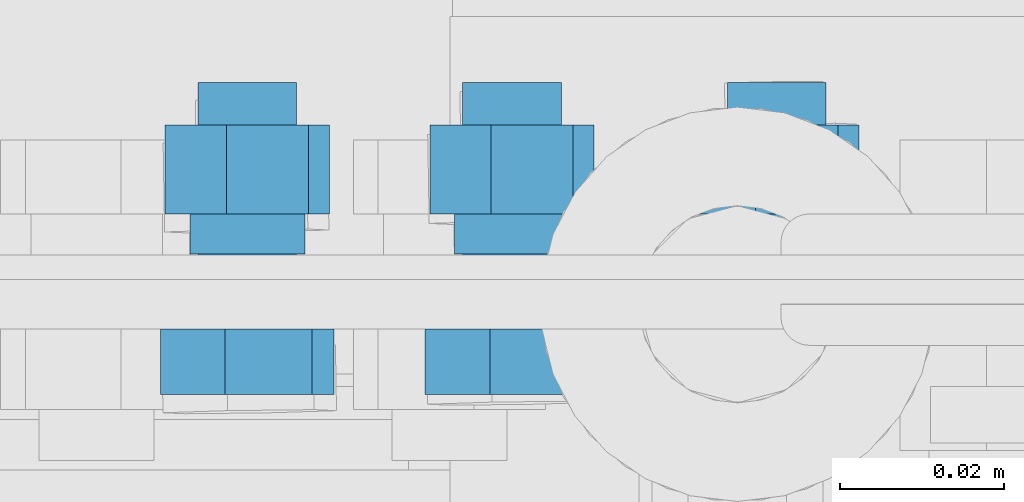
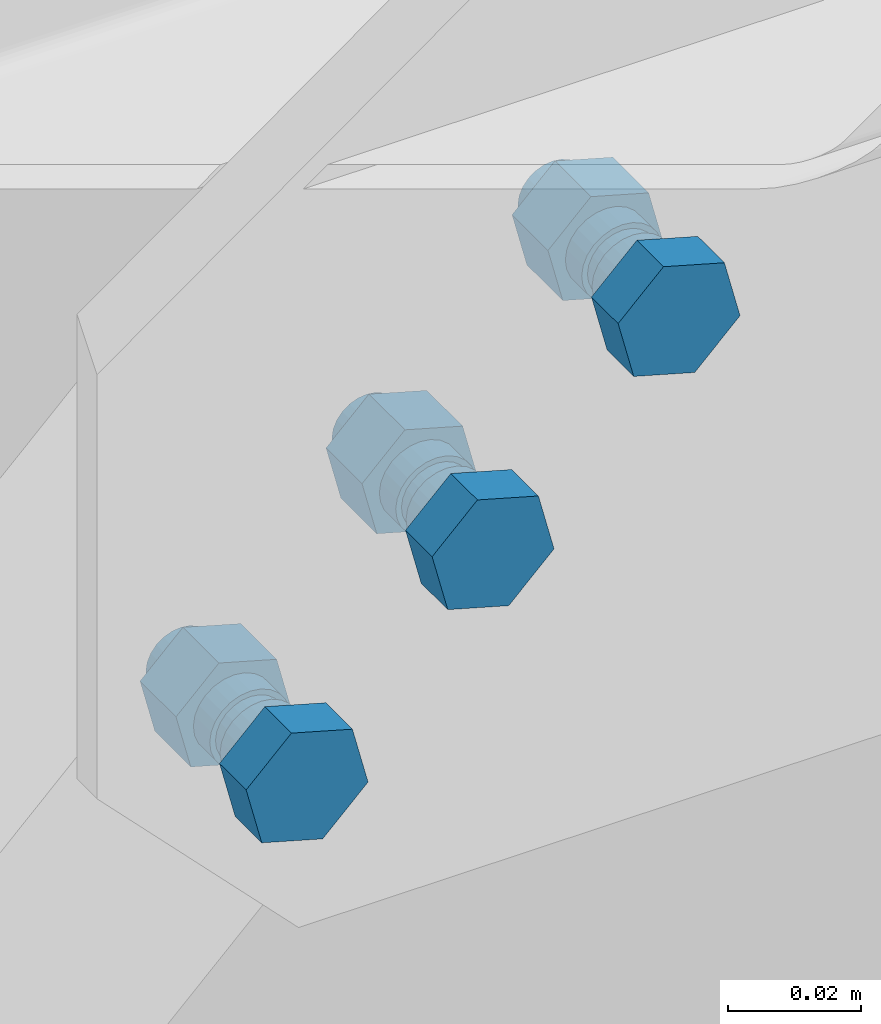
# One storey, part 12 of 21: 1 mechanical fastener.
"""IFC2X3 building model written with IfcOpenShell, lengths in millimetres."""

from ifc_helpers import new_model, si_unit, frame, origin_with_axes, place, context, project, spatial, faceted_brep, element, save


model = new_model("IFC2X3")

# Units and contexts
model_context_1 = context("Model", 3, precision=1e-05, world=origin_with_axes(), identifier="Body")
model_context_2 = context("Model", 3, precision=1e-05, world=origin_with_axes())
ifc_project = project(units=[si_unit("LENGTHUNIT", "METRE", prefix="MILLI"), si_unit("AREAUNIT", "SQUARE_METRE"), si_unit("VOLUMEUNIT", "CUBIC_METRE"), si_unit("MASSUNIT", "GRAM", prefix="KILO"), si_unit("TIMEUNIT", "SECOND"), si_unit("PLANEANGLEUNIT", "RADIAN"), si_unit("SOLIDANGLEUNIT", "STERADIAN"), si_unit("THERMODYNAMICTEMPERATUREUNIT", "DEGREE_CELSIUS"), si_unit("LUMINOUSINTENSITYUNIT", "LUMEN")], contexts=[model_context_1, model_context_2])

# Site, building, storey
site_placement = place(None, origin_with_axes())
site = spatial("IfcSite", under=ifc_project, at=site_placement, Name="Undefined", CompositionType="ELEMENT")
building_placement = place(site_placement, origin_with_axes())
building = spatial("IfcBuilding", under=site, at=building_placement, Name="Undefined", CompositionType="ELEMENT")
storey_placement = place(building_placement, origin_with_axes())
storey = spatial("IfcBuildingStorey", under=building, at=storey_placement, Name="Undefined", CompositionType="ELEMENT")

# Mechanical fastener
mechanical_fastener_placement = place(storey_placement, frame((-55.216616, -68.999999, 5327.1381), z_axis=(0.69826255, -6.8418165e-13, -0.71584175), x_axis=(-0.71583755, -2.6949672e-13, -0.69826685)))
element("IfcMechanicalFastener", 1, at=mechanical_fastener_placement, inside=storey, Name="Bolt assembly", NominalDiameter=12.0, NominalLength=30.0, context=model_context_1, shape_type="Brep", body=[
    faceted_brep([(10.969655, -16.999478, 0.0), (5.4848276, -16.999478, 9.5), (-5.4848276, -16.999478, 9.5), (-10.969655, -16.999478, 0.0), (-5.4848276, -16.999478, -9.5), (5.4848276, -16.999478, -9.5), (5.4848276, -8.9994778, -9.5), (-5.4848276, -8.9994778, -9.5), (-10.969655, -8.9994778, 0.0), (-5.4848276, -8.9994778, 9.5), (5.4848276, -8.9994778, 9.5), (10.969655, -8.9994778, 0.0), (6.0, -8.9994778, 0.0), (5.795555, -8.9994778, 1.5529143), (5.1961524, -8.9994778, 3.0), (4.2426407, -8.9994778, 4.2426407), (3.0, -8.9994778, 5.1961524), (1.5529143, -8.9994778, 5.795555), (-6.2180159e-13, -8.9994778, 6.0), (-1.5529143, -8.9994778, 5.795555), (-3.0, -8.9994778, 5.1961524), (-4.2426407, -8.9994778, 4.2426407), (-5.1961524, -8.9994778, 3.0), (-5.795555, -8.9994778, 1.5529143), (-6.0, -8.9994778, -1.2436032e-12), (-5.795555, -8.9994778, -1.5529143), (-5.1961524, -8.9994778, -3.0), (-4.2426407, -8.9994778, -4.2426407), (-3.0, -8.9994778, -5.1961524), (-1.5529143, -8.9994778, -5.795555), (1.8587434e-12, -8.9994778, -6.0), (1.5529143, -8.9994778, -5.795555), (3.0, -8.9994778, -5.1961524), (4.2426407, -8.9994778, -4.2426407), (5.1961524, -8.9994778, -3.0), (5.795555, -8.9994778, -1.5529143), (5.795555, 21.000522, -1.5529143), (5.1961524, 21.000522, -3.0), (4.2426407, 21.000522, -4.2426407), (3.0, 21.000522, -5.1961524), (1.5529143, 21.000522, -5.795555), (1.8587434e-12, 21.000522, -6.0), (-1.5529143, 21.000522, -5.795555), (-3.0, 21.000522, -5.1961524), (-4.2426407, 21.000522, -4.2426407), (-5.1961524, 21.000522, -3.0), (-5.795555, 21.000522, -1.5529143), (-6.0, 21.000522, -1.2436032e-12), (-5.795555, 21.000522, 1.5529143), (-5.1961524, 21.000522, 3.0), (-4.2426407, 21.000522, 4.2426407), (-3.0, 21.000522, 5.1961524), (-1.5529143, 21.000522, 5.795555), (-6.2180159e-13, 21.000522, 6.0), (1.5529143, 21.000522, 5.795555), (3.0, 21.000522, 5.1961524), (4.2426407, 21.000522, 4.2426407), (5.1961524, 21.000522, 3.0), (5.795555, 21.000522, 1.5529143), (6.0, 21.000522, 0.0), (10.392305, 5.0, 0.0), (5.1961524, 5.0, 9.0), (-5.1961524, 5.0, 9.0), (-10.392305, 5.0, 0.0), (-5.1961524, 5.0, -9.0), (5.1961524, 5.0, -9.0), (5.1961524, 15.8, -9.0), (-5.1961524, 15.8, -9.0), (-10.392305, 15.8, 0.0), (-5.1961524, 15.8, 9.0), (5.1961524, 15.8, 9.0), (10.392305, 15.8, 0.0), (55.969655, -16.999478, 0.0), (50.484828, -16.999478, 9.5), (39.515172, -16.999478, 9.5), (34.030345, -16.999478, 0.0), (39.515172, -16.999478, -9.5), (50.484828, -16.999478, -9.5), (50.484828, -8.9994778, -9.5), (39.515172, -8.9994778, -9.5), (34.030345, -8.9994778, 0.0), (39.515172, -8.9994778, 9.5), (50.484828, -8.9994778, 9.5), (55.969655, -8.9994778, 0.0), (51.0, -8.9994778, 0.0), (50.795555, -8.9994778, 1.5529143), (50.196152, -8.9994778, 3.0), (49.242641, -8.9994778, 4.2426407), (48.0, -8.9994778, 5.1961524), (46.552914, -8.9994778, 5.795555), (45.0, -8.9994778, 6.0), (43.447086, -8.9994778, 5.795555), (42.0, -8.9994778, 5.1961524), (40.757359, -8.9994778, 4.2426407), (39.803848, -8.9994778, 3.0), (39.204445, -8.9994778, 1.5529143), (39.0, -8.9994778, -1.2436032e-12), (39.204445, -8.9994778, -1.5529143), (39.803848, -8.9994778, -3.0), (40.757359, -8.9994778, -4.2426407), (42.0, -8.9994778, -5.1961524), (43.447086, -8.9994778, -5.795555), (45.0, -8.9994778, -6.0), (46.552914, -8.9994778, -5.795555), (48.0, -8.9994778, -5.1961524), (49.242641, -8.9994778, -4.2426407), (50.196152, -8.9994778, -3.0), (50.795555, -8.9994778, -1.5529143), (50.795555, 21.000522, -1.5529143), (50.196152, 21.000522, -3.0), (49.242641, 21.000522, -4.2426407), (48.0, 21.000522, -5.1961524), (46.552914, 21.000522, -5.795555), (45.0, 21.000522, -6.0), (43.447086, 21.000522, -5.795555), (42.0, 21.000522, -5.1961524), (40.757359, 21.000522, -4.2426407), (39.803848, 21.000522, -3.0), (39.204445, 21.000522, -1.5529143), (39.0, 21.000522, -1.2436032e-12), (39.204445, 21.000522, 1.5529143), (39.803848, 21.000522, 3.0), (40.757359, 21.000522, 4.2426407), (42.0, 21.000522, 5.1961524), (43.447086, 21.000522, 5.795555), (45.0, 21.000522, 6.0), (46.552914, 21.000522, 5.795555), (48.0, 21.000522, 5.1961524), (49.242641, 21.000522, 4.2426407), (50.196152, 21.000522, 3.0), (50.795555, 21.000522, 1.5529143), (51.0, 21.000522, 0.0), (55.392305, 5.0, 0.0), (50.196152, 5.0, 9.0), (39.803848, 5.0, 9.0), (34.607695, 5.0, 0.0), (39.803848, 5.0, -9.0), (50.196152, 5.0, -9.0), (50.196152, 15.8, -9.0), (39.803848, 15.8, -9.0), (34.607695, 15.8, 0.0), (39.803848, 15.8, 9.0), (50.196152, 15.8, 9.0), (55.392305, 15.8, 0.0), (100.96966, -16.999478, 0.0), (95.484828, -16.999478, 9.5), (84.515172, -16.999478, 9.5), (79.030345, -16.999478, 0.0), (84.515172, -16.999478, -9.5), (95.484828, -16.999478, -9.5), (95.484828, -8.9994778, -9.5), (84.515172, -8.9994778, -9.5), (79.030345, -8.9994778, 0.0), (84.515172, -8.9994778, 9.5), (95.484828, -8.9994778, 9.5), (100.96966, -8.9994778, 0.0), (96.0, -8.9994778, 0.0), (95.795555, -8.9994778, 1.5529143), (95.196152, -8.9994778, 3.0), (94.242641, -8.9994778, 4.2426407), (93.0, -8.9994778, 5.1961524), (91.552914, -8.9994778, 5.795555), (90.0, -8.9994778, 6.0), (88.447086, -8.9994778, 5.795555), (87.0, -8.9994778, 5.1961524), (85.757359, -8.9994778, 4.2426407), (84.803848, -8.9994778, 3.0), (84.204445, -8.9994778, 1.5529143), (84.0, -8.9994778, -1.2436032e-12), (84.204445, -8.9994778, -1.5529143), (84.803848, -8.9994778, -3.0), (85.757359, -8.9994778, -4.2426407), (87.0, -8.9994778, -5.1961524), (88.447086, -8.9994778, -5.795555), (90.0, -8.9994778, -6.0), (91.552914, -8.9994778, -5.795555), (93.0, -8.9994778, -5.1961524), (94.242641, -8.9994778, -4.2426407), (95.196152, -8.9994778, -3.0), (95.795555, -8.9994778, -1.5529143), (95.795555, 21.000522, -1.5529143), (95.196152, 21.000522, -3.0), (94.242641, 21.000522, -4.2426407), (93.0, 21.000522, -5.1961524), (91.552914, 21.000522, -5.795555), (90.0, 21.000522, -6.0), (88.447086, 21.000522, -5.795555), (87.0, 21.000522, -5.1961524), (85.757359, 21.000522, -4.2426407), (84.803848, 21.000522, -3.0), (84.204445, 21.000522, -1.5529143), (84.0, 21.000522, -1.2436032e-12), (84.204445, 21.000522, 1.5529143), (84.803848, 21.000522, 3.0), (85.757359, 21.000522, 4.2426407), (87.0, 21.000522, 5.1961524), (88.447086, 21.000522, 5.795555), (90.0, 21.000522, 6.0), (91.552914, 21.000522, 5.795555), (93.0, 21.000522, 5.1961524), (94.242641, 21.000522, 4.2426407), (95.196152, 21.000522, 3.0), (95.795555, 21.000522, 1.5529143), (96.0, 21.000522, 0.0), (100.3923, 5.0, 0.0), (95.196152, 5.0, 9.0), (84.803848, 5.0, 9.0), (79.607695, 5.0, 0.0), (84.803848, 5.0, -9.0), (95.196152, 5.0, -9.0), (95.196152, 15.8, -9.0), (84.803848, 15.8, -9.0), (79.607695, 15.8, 0.0), (84.803848, 15.8, 9.0), (95.196152, 15.8, 9.0), (100.3923, 15.8, 0.0)], [[[0, 1, 2, 3, 4, 5]], [[6, 7, 8, 9, 10, 11]], [[0, 11, 10, 1]], [[1, 10, 9, 2]], [[2, 9, 8, 3]], [[3, 8, 7, 4]], [[4, 7, 6, 5]], [[5, 6, 11, 0]], [[12, 13, 14, 15, 16, 17, 18, 19, 20, 21, 22, 23, 24, 25, 26, 27, 28, 29, 30, 31, 32, 33, 34, 35]], [[36, 37, 38, 39, 40, 41, 42, 43, 44, 45, 46, 47, 48, 49, 50, 51, 52, 53, 54, 55, 56, 57, 58, 59]], [[12, 59, 58, 13]], [[13, 58, 57, 14]], [[14, 57, 56, 15]], [[15, 56, 55, 16]], [[16, 55, 54, 17]], [[17, 54, 53, 18]], [[18, 53, 52, 19]], [[19, 52, 51, 20]], [[20, 51, 50, 21]], [[21, 50, 49, 22]], [[22, 49, 48, 23]], [[23, 48, 47, 24]], [[24, 47, 46, 25]], [[25, 46, 45, 26]], [[26, 45, 44, 27]], [[27, 44, 43, 28]], [[28, 43, 42, 29]], [[29, 42, 41, 30]], [[30, 41, 40, 31]], [[31, 40, 39, 32]], [[32, 39, 38, 33]], [[33, 38, 37, 34]], [[34, 37, 36, 35]], [[35, 36, 59, 12]], [[60, 61, 62, 63, 64, 65]], [[66, 67, 68, 69, 70, 71]], [[60, 71, 70, 61]], [[61, 70, 69, 62]], [[62, 69, 68, 63]], [[63, 68, 67, 64]], [[64, 67, 66, 65]], [[65, 66, 71, 60]], [[72, 73, 74, 75, 76, 77]], [[78, 79, 80, 81, 82, 83]], [[72, 83, 82, 73]], [[73, 82, 81, 74]], [[74, 81, 80, 75]], [[75, 80, 79, 76]], [[76, 79, 78, 77]], [[77, 78, 83, 72]], [[84, 85, 86, 87, 88, 89, 90, 91, 92, 93, 94, 95, 96, 97, 98, 99, 100, 101, 102, 103, 104, 105, 106, 107]], [[108, 109, 110, 111, 112, 113, 114, 115, 116, 117, 118, 119, 120, 121, 122, 123, 124, 125, 126, 127, 128, 129, 130, 131]], [[84, 131, 130, 85]], [[85, 130, 129, 86]], [[86, 129, 128, 87]], [[87, 128, 127, 88]], [[88, 127, 126, 89]], [[89, 126, 125, 90]], [[90, 125, 124, 91]], [[91, 124, 123, 92]], [[92, 123, 122, 93]], [[93, 122, 121, 94]], [[94, 121, 120, 95]], [[95, 120, 119, 96]], [[96, 119, 118, 97]], [[97, 118, 117, 98]], [[98, 117, 116, 99]], [[99, 116, 115, 100]], [[100, 115, 114, 101]], [[101, 114, 113, 102]], [[102, 113, 112, 103]], [[103, 112, 111, 104]], [[104, 111, 110, 105]], [[105, 110, 109, 106]], [[106, 109, 108, 107]], [[107, 108, 131, 84]], [[132, 133, 134, 135, 136, 137]], [[138, 139, 140, 141, 142, 143]], [[132, 143, 142, 133]], [[133, 142, 141, 134]], [[134, 141, 140, 135]], [[135, 140, 139, 136]], [[136, 139, 138, 137]], [[137, 138, 143, 132]], [[144, 145, 146, 147, 148, 149]], [[150, 151, 152, 153, 154, 155]], [[144, 155, 154, 145]], [[145, 154, 153, 146]], [[146, 153, 152, 147]], [[147, 152, 151, 148]], [[148, 151, 150, 149]], [[149, 150, 155, 144]], [[156, 157, 158, 159, 160, 161, 162, 163, 164, 165, 166, 167, 168, 169, 170, 171, 172, 173, 174, 175, 176, 177, 178, 179]], [[180, 181, 182, 183, 184, 185, 186, 187, 188, 189, 190, 191, 192, 193, 194, 195, 196, 197, 198, 199, 200, 201, 202, 203]], [[156, 203, 202, 157]], [[157, 202, 201, 158]], [[158, 201, 200, 159]], [[159, 200, 199, 160]], [[160, 199, 198, 161]], [[161, 198, 197, 162]], [[162, 197, 196, 163]], [[163, 196, 195, 164]], [[164, 195, 194, 165]], [[165, 194, 193, 166]], [[166, 193, 192, 167]], [[167, 192, 191, 168]], [[168, 191, 190, 169]], [[169, 190, 189, 170]], [[170, 189, 188, 171]], [[171, 188, 187, 172]], [[172, 187, 186, 173]], [[173, 186, 185, 174]], [[174, 185, 184, 175]], [[175, 184, 183, 176]], [[176, 183, 182, 177]], [[177, 182, 181, 178]], [[178, 181, 180, 179]], [[179, 180, 203, 156]], [[204, 205, 206, 207, 208, 209]], [[210, 211, 212, 213, 214, 215]], [[204, 215, 214, 205]], [[205, 214, 213, 206]], [[206, 213, 212, 207]], [[207, 212, 211, 208]], [[208, 211, 210, 209]], [[209, 210, 215, 204]]]),
    faceted_brep([(7.0, -9.0994778, 0.0), (6.7614808, -9.0994778, 1.8117333), (6.0621778, -9.0994778, 3.5), (4.9497475, -9.0994778, 4.9497475), (3.5, -9.0994778, 6.0621778), (1.8117333, -9.0994778, 6.7614808), (-7.2543519e-13, -9.0994778, 7.0), (-1.8117333, -9.0994778, 6.7614808), (-3.5, -9.0994778, 6.0621778), (-4.9497475, -9.0994778, 4.9497475), (-6.0621778, -9.0994778, 3.5), (-6.7614808, -9.0994778, 1.8117333), (-7.0, -9.0994778, -1.4508704e-12), (-6.7614808, -9.0994778, -1.8117333), (-6.0621778, -9.0994778, -3.5), (-4.9497475, -9.0994778, -4.9497475), (-3.5, -9.0994778, -6.0621778), (-1.8117333, -9.0994778, -6.7614808), (2.168534e-12, -9.0994778, -7.0), (1.8117333, -9.0994778, -6.7614808), (3.5, -9.0994778, -6.0621778), (4.9497475, -9.0994778, -4.9497475), (6.0621778, -9.0994778, -3.5), (6.7614808, -9.0994778, -1.8117333), (6.7614808, -2.9994778, -1.8117333), (6.0621778, -2.9994778, -3.5), (4.9497475, -2.9994778, -4.9497475), (3.5, -2.9994778, -6.0621778), (1.8117333, -2.9994778, -6.7614808), (2.168534e-12, -2.9994778, -7.0), (-1.8117333, -2.9994778, -6.7614808), (-3.5, -2.9994778, -6.0621778), (-4.9497475, -2.9994778, -4.9497475), (-6.0621778, -2.9994778, -3.5), (-6.7614808, -2.9994778, -1.8117333), (-7.0, -2.9994778, -1.4508704e-12), (-6.7614808, -2.9994778, 1.8117333), (-6.0621778, -2.9994778, 3.5), (-4.9497475, -2.9994778, 4.9497475), (-3.5, -2.9994778, 6.0621778), (-1.8117333, -2.9994778, 6.7614808), (-7.2543519e-13, -2.9994778, 7.0), (1.8117333, -2.9994778, 6.7614808), (3.5, -2.9994778, 6.0621778), (4.9497475, -2.9994778, 4.9497475), (6.0621778, -2.9994778, 3.5), (6.7614808, -2.9994778, 1.8117333), (7.0, -2.9994778, 0.0), (7.0, 0.1, 0.0), (6.7614808, 0.1, 1.8117333), (6.0621778, 0.1, 3.5), (4.9497475, 0.1, 4.9497475), (3.5, 0.1, 6.0621778), (1.8117333, 0.1, 6.7614808), (-7.2543519e-13, 0.1, 7.0), (-1.8117333, 0.1, 6.7614808), (-3.5, 0.1, 6.0621778), (-4.9497475, 0.1, 4.9497475), (-6.0621778, 0.1, 3.5), (-6.7614808, 0.1, 1.8117333), (-7.0, 0.1, -1.4508704e-12), (-6.7614808, 0.1, -1.8117333), (-6.0621778, 0.1, -3.5), (-4.9497475, 0.1, -4.9497475), (-3.5, 0.1, -6.0621778), (-1.8117333, 0.1, -6.7614808), (2.168534e-12, 0.1, -7.0), (1.8117333, 0.1, -6.7614808), (3.5, 0.1, -6.0621778), (4.9497475, 0.1, -4.9497475), (6.0621778, 0.1, -3.5), (6.7614808, 0.1, -1.8117333), (6.7614808, 5.1, -1.8117333), (6.0621778, 5.1, -3.5), (4.9497475, 5.1, -4.9497475), (3.5, 5.1, -6.0621778), (1.8117333, 5.1, -6.7614808), (2.168534e-12, 5.1, -7.0), (-1.8117333, 5.1, -6.7614808), (-3.5, 5.1, -6.0621778), (-4.9497475, 5.1, -4.9497475), (-6.0621778, 5.1, -3.5), (-6.7614808, 5.1, -1.8117333), (-7.0, 5.1, -1.4508704e-12), (-6.7614808, 5.1, 1.8117333), (-6.0621778, 5.1, 3.5), (-4.9497475, 5.1, 4.9497475), (-3.5, 5.1, 6.0621778), (-1.8117333, 5.1, 6.7614808), (-7.2543519e-13, 5.1, 7.0), (1.8117333, 5.1, 6.7614808), (3.5, 5.1, 6.0621778), (4.9497475, 5.1, 4.9497475), (6.0621778, 5.1, 3.5), (6.7614808, 5.1, 1.8117333), (7.0, 5.1, 0.0), (52.0, -9.0994778, 0.0), (51.761481, -9.0994778, 1.8117333), (51.062178, -9.0994778, 3.5), (49.949747, -9.0994778, 4.9497475), (48.5, -9.0994778, 6.0621778), (46.811733, -9.0994778, 6.7614808), (45.0, -9.0994778, 7.0), (43.188267, -9.0994778, 6.7614808), (41.5, -9.0994778, 6.0621778), (40.050253, -9.0994778, 4.9497475), (38.937822, -9.0994778, 3.5), (38.238519, -9.0994778, 1.8117333), (38.0, -9.0994778, -1.4508704e-12), (38.238519, -9.0994778, -1.8117333), (38.937822, -9.0994778, -3.5), (40.050253, -9.0994778, -4.9497475), (41.5, -9.0994778, -6.0621778), (43.188267, -9.0994778, -6.7614808), (45.0, -9.0994778, -7.0), (46.811733, -9.0994778, -6.7614808), (48.5, -9.0994778, -6.0621778), (49.949747, -9.0994778, -4.9497475), (51.062178, -9.0994778, -3.5), (51.761481, -9.0994778, -1.8117333), (51.761481, -2.9994778, -1.8117333), (51.062178, -2.9994778, -3.5), (49.949747, -2.9994778, -4.9497475), (48.5, -2.9994778, -6.0621778), (46.811733, -2.9994778, -6.7614808), (45.0, -2.9994778, -7.0), (43.188267, -2.9994778, -6.7614808), (41.5, -2.9994778, -6.0621778), (40.050253, -2.9994778, -4.9497475), (38.937822, -2.9994778, -3.5), (38.238519, -2.9994778, -1.8117333), (38.0, -2.9994778, -1.4508704e-12), (38.238519, -2.9994778, 1.8117333), (38.937822, -2.9994778, 3.5), (40.050253, -2.9994778, 4.9497475), (41.5, -2.9994778, 6.0621778), (43.188267, -2.9994778, 6.7614808), (45.0, -2.9994778, 7.0), (46.811733, -2.9994778, 6.7614808), (48.5, -2.9994778, 6.0621778), (49.949747, -2.9994778, 4.9497475), (51.062178, -2.9994778, 3.5), (51.761481, -2.9994778, 1.8117333), (52.0, -2.9994778, 0.0), (52.0, 0.1, 0.0), (51.761481, 0.1, 1.8117333), (51.062178, 0.1, 3.5), (49.949747, 0.1, 4.9497475), (48.5, 0.1, 6.0621778), (46.811733, 0.1, 6.7614808), (45.0, 0.1, 7.0), (43.188267, 0.1, 6.7614808), (41.5, 0.1, 6.0621778), (40.050253, 0.1, 4.9497475), (38.937822, 0.1, 3.5), (38.238519, 0.1, 1.8117333), (38.0, 0.1, -1.4508704e-12), (38.238519, 0.1, -1.8117333), (38.937822, 0.1, -3.5), (40.050253, 0.1, -4.9497475), (41.5, 0.1, -6.0621778), (43.188267, 0.1, -6.7614808), (45.0, 0.1, -7.0), (46.811733, 0.1, -6.7614808), (48.5, 0.1, -6.0621778), (49.949747, 0.1, -4.9497475), (51.062178, 0.1, -3.5), (51.761481, 0.1, -1.8117333), (51.761481, 5.1, -1.8117333), (51.062178, 5.1, -3.5), (49.949747, 5.1, -4.9497475), (48.5, 5.1, -6.0621778), (46.811733, 5.1, -6.7614808), (45.0, 5.1, -7.0), (43.188267, 5.1, -6.7614808), (41.5, 5.1, -6.0621778), (40.050253, 5.1, -4.9497475), (38.937822, 5.1, -3.5), (38.238519, 5.1, -1.8117333), (38.0, 5.1, -1.4508704e-12), (38.238519, 5.1, 1.8117333), (38.937822, 5.1, 3.5), (40.050253, 5.1, 4.9497475), (41.5, 5.1, 6.0621778), (43.188267, 5.1, 6.7614808), (45.0, 5.1, 7.0), (46.811733, 5.1, 6.7614808), (48.5, 5.1, 6.0621778), (49.949747, 5.1, 4.9497475), (51.062178, 5.1, 3.5), (51.761481, 5.1, 1.8117333), (52.0, 5.1, 0.0), (97.0, -9.0994778, 0.0), (96.761481, -9.0994778, 1.8117333), (96.062178, -9.0994778, 3.5), (94.949747, -9.0994778, 4.9497475), (93.5, -9.0994778, 6.0621778), (91.811733, -9.0994778, 6.7614808), (90.0, -9.0994778, 7.0), (88.188267, -9.0994778, 6.7614808), (86.5, -9.0994778, 6.0621778), (85.050253, -9.0994778, 4.9497475), (83.937822, -9.0994778, 3.5), (83.238519, -9.0994778, 1.8117333), (83.0, -9.0994778, -1.4508704e-12), (83.238519, -9.0994778, -1.8117333), (83.937822, -9.0994778, -3.5), (85.050253, -9.0994778, -4.9497475), (86.5, -9.0994778, -6.0621778), (88.188267, -9.0994778, -6.7614808), (90.0, -9.0994778, -7.0), (91.811733, -9.0994778, -6.7614808), (93.5, -9.0994778, -6.0621778), (94.949747, -9.0994778, -4.9497475), (96.062178, -9.0994778, -3.5), (96.761481, -9.0994778, -1.8117333), (96.761481, -2.9994778, -1.8117333), (96.062178, -2.9994778, -3.5), (94.949747, -2.9994778, -4.9497475), (93.5, -2.9994778, -6.0621778), (91.811733, -2.9994778, -6.7614808), (90.0, -2.9994778, -7.0), (88.188267, -2.9994778, -6.7614808), (86.5, -2.9994778, -6.0621778), (85.050253, -2.9994778, -4.9497475), (83.937822, -2.9994778, -3.5), (83.238519, -2.9994778, -1.8117333), (83.0, -2.9994778, -1.4508704e-12), (83.238519, -2.9994778, 1.8117333), (83.937822, -2.9994778, 3.5), (85.050253, -2.9994778, 4.9497475), (86.5, -2.9994778, 6.0621778), (88.188267, -2.9994778, 6.7614808), (90.0, -2.9994778, 7.0), (91.811733, -2.9994778, 6.7614808), (93.5, -2.9994778, 6.0621778), (94.949747, -2.9994778, 4.9497475), (96.062178, -2.9994778, 3.5), (96.761481, -2.9994778, 1.8117333), (97.0, -2.9994778, 0.0), (97.0, 0.1, 0.0), (96.761481, 0.1, 1.8117333), (96.062178, 0.1, 3.5), (94.949747, 0.1, 4.9497475), (93.5, 0.1, 6.0621778), (91.811733, 0.1, 6.7614808), (90.0, 0.1, 7.0), (88.188267, 0.1, 6.7614808), (86.5, 0.1, 6.0621778), (85.050253, 0.1, 4.9497475), (83.937822, 0.1, 3.5), (83.238519, 0.1, 1.8117333), (83.0, 0.1, -1.4508704e-12), (83.238519, 0.1, -1.8117333), (83.937822, 0.1, -3.5), (85.050253, 0.1, -4.9497475), (86.5, 0.1, -6.0621778), (88.188267, 0.1, -6.7614808), (90.0, 0.1, -7.0), (91.811733, 0.1, -6.7614808), (93.5, 0.1, -6.0621778), (94.949747, 0.1, -4.9497475), (96.062178, 0.1, -3.5), (96.761481, 0.1, -1.8117333), (96.761481, 5.1, -1.8117333), (96.062178, 5.1, -3.5), (94.949747, 5.1, -4.9497475), (93.5, 5.1, -6.0621778), (91.811733, 5.1, -6.7614808), (90.0, 5.1, -7.0), (88.188267, 5.1, -6.7614808), (86.5, 5.1, -6.0621778), (85.050253, 5.1, -4.9497475), (83.937822, 5.1, -3.5), (83.238519, 5.1, -1.8117333), (83.0, 5.1, -1.4508704e-12), (83.238519, 5.1, 1.8117333), (83.937822, 5.1, 3.5), (85.050253, 5.1, 4.9497475), (86.5, 5.1, 6.0621778), (88.188267, 5.1, 6.7614808), (90.0, 5.1, 7.0), (91.811733, 5.1, 6.7614808), (93.5, 5.1, 6.0621778), (94.949747, 5.1, 4.9497475), (96.062178, 5.1, 3.5), (96.761481, 5.1, 1.8117333), (97.0, 5.1, 0.0)], [[[0, 1, 2, 3, 4, 5, 6, 7, 8, 9, 10, 11, 12, 13, 14, 15, 16, 17, 18, 19, 20, 21, 22, 23]], [[24, 25, 26, 27, 28, 29, 30, 31, 32, 33, 34, 35, 36, 37, 38, 39, 40, 41, 42, 43, 44, 45, 46, 47]], [[0, 47, 46, 1]], [[1, 46, 45, 2]], [[2, 45, 44, 3]], [[3, 44, 43, 4]], [[4, 43, 42, 5]], [[5, 42, 41, 6]], [[6, 41, 40, 7]], [[7, 40, 39, 8]], [[8, 39, 38, 9]], [[9, 38, 37, 10]], [[10, 37, 36, 11]], [[11, 36, 35, 12]], [[12, 35, 34, 13]], [[13, 34, 33, 14]], [[14, 33, 32, 15]], [[15, 32, 31, 16]], [[16, 31, 30, 17]], [[17, 30, 29, 18]], [[18, 29, 28, 19]], [[19, 28, 27, 20]], [[20, 27, 26, 21]], [[21, 26, 25, 22]], [[22, 25, 24, 23]], [[23, 24, 47, 0]], [[48, 49, 50, 51, 52, 53, 54, 55, 56, 57, 58, 59, 60, 61, 62, 63, 64, 65, 66, 67, 68, 69, 70, 71]], [[72, 73, 74, 75, 76, 77, 78, 79, 80, 81, 82, 83, 84, 85, 86, 87, 88, 89, 90, 91, 92, 93, 94, 95]], [[48, 95, 94, 49]], [[49, 94, 93, 50]], [[50, 93, 92, 51]], [[51, 92, 91, 52]], [[52, 91, 90, 53]], [[53, 90, 89, 54]], [[54, 89, 88, 55]], [[55, 88, 87, 56]], [[56, 87, 86, 57]], [[57, 86, 85, 58]], [[58, 85, 84, 59]], [[59, 84, 83, 60]], [[60, 83, 82, 61]], [[61, 82, 81, 62]], [[62, 81, 80, 63]], [[63, 80, 79, 64]], [[64, 79, 78, 65]], [[65, 78, 77, 66]], [[66, 77, 76, 67]], [[67, 76, 75, 68]], [[68, 75, 74, 69]], [[69, 74, 73, 70]], [[70, 73, 72, 71]], [[71, 72, 95, 48]], [[96, 97, 98, 99, 100, 101, 102, 103, 104, 105, 106, 107, 108, 109, 110, 111, 112, 113, 114, 115, 116, 117, 118, 119]], [[120, 121, 122, 123, 124, 125, 126, 127, 128, 129, 130, 131, 132, 133, 134, 135, 136, 137, 138, 139, 140, 141, 142, 143]], [[96, 143, 142, 97]], [[97, 142, 141, 98]], [[98, 141, 140, 99]], [[99, 140, 139, 100]], [[100, 139, 138, 101]], [[101, 138, 137, 102]], [[102, 137, 136, 103]], [[103, 136, 135, 104]], [[104, 135, 134, 105]], [[105, 134, 133, 106]], [[106, 133, 132, 107]], [[107, 132, 131, 108]], [[108, 131, 130, 109]], [[109, 130, 129, 110]], [[110, 129, 128, 111]], [[111, 128, 127, 112]], [[112, 127, 126, 113]], [[113, 126, 125, 114]], [[114, 125, 124, 115]], [[115, 124, 123, 116]], [[116, 123, 122, 117]], [[117, 122, 121, 118]], [[118, 121, 120, 119]], [[119, 120, 143, 96]], [[144, 145, 146, 147, 148, 149, 150, 151, 152, 153, 154, 155, 156, 157, 158, 159, 160, 161, 162, 163, 164, 165, 166, 167]], [[168, 169, 170, 171, 172, 173, 174, 175, 176, 177, 178, 179, 180, 181, 182, 183, 184, 185, 186, 187, 188, 189, 190, 191]], [[144, 191, 190, 145]], [[145, 190, 189, 146]], [[146, 189, 188, 147]], [[147, 188, 187, 148]], [[148, 187, 186, 149]], [[149, 186, 185, 150]], [[150, 185, 184, 151]], [[151, 184, 183, 152]], [[152, 183, 182, 153]], [[153, 182, 181, 154]], [[154, 181, 180, 155]], [[155, 180, 179, 156]], [[156, 179, 178, 157]], [[157, 178, 177, 158]], [[158, 177, 176, 159]], [[159, 176, 175, 160]], [[160, 175, 174, 161]], [[161, 174, 173, 162]], [[162, 173, 172, 163]], [[163, 172, 171, 164]], [[164, 171, 170, 165]], [[165, 170, 169, 166]], [[166, 169, 168, 167]], [[167, 168, 191, 144]], [[192, 193, 194, 195, 196, 197, 198, 199, 200, 201, 202, 203, 204, 205, 206, 207, 208, 209, 210, 211, 212, 213, 214, 215]], [[216, 217, 218, 219, 220, 221, 222, 223, 224, 225, 226, 227, 228, 229, 230, 231, 232, 233, 234, 235, 236, 237, 238, 239]], [[192, 239, 238, 193]], [[193, 238, 237, 194]], [[194, 237, 236, 195]], [[195, 236, 235, 196]], [[196, 235, 234, 197]], [[197, 234, 233, 198]], [[198, 233, 232, 199]], [[199, 232, 231, 200]], [[200, 231, 230, 201]], [[201, 230, 229, 202]], [[202, 229, 228, 203]], [[203, 228, 227, 204]], [[204, 227, 226, 205]], [[205, 226, 225, 206]], [[206, 225, 224, 207]], [[207, 224, 223, 208]], [[208, 223, 222, 209]], [[209, 222, 221, 210]], [[210, 221, 220, 211]], [[211, 220, 219, 212]], [[212, 219, 218, 213]], [[213, 218, 217, 214]], [[214, 217, 216, 215]], [[215, 216, 239, 192]], [[240, 241, 242, 243, 244, 245, 246, 247, 248, 249, 250, 251, 252, 253, 254, 255, 256, 257, 258, 259, 260, 261, 262, 263]], [[264, 265, 266, 267, 268, 269, 270, 271, 272, 273, 274, 275, 276, 277, 278, 279, 280, 281, 282, 283, 284, 285, 286, 287]], [[240, 287, 286, 241]], [[241, 286, 285, 242]], [[242, 285, 284, 243]], [[243, 284, 283, 244]], [[244, 283, 282, 245]], [[245, 282, 281, 246]], [[246, 281, 280, 247]], [[247, 280, 279, 248]], [[248, 279, 278, 249]], [[249, 278, 277, 250]], [[250, 277, 276, 251]], [[251, 276, 275, 252]], [[252, 275, 274, 253]], [[253, 274, 273, 254]], [[254, 273, 272, 255]], [[255, 272, 271, 256]], [[256, 271, 270, 257]], [[257, 270, 269, 258]], [[258, 269, 268, 259]], [[259, 268, 267, 260]], [[260, 267, 266, 261]], [[261, 266, 265, 262]], [[262, 265, 264, 263]], [[263, 264, 287, 240]]]),
])

save(model, "model.ifc")
